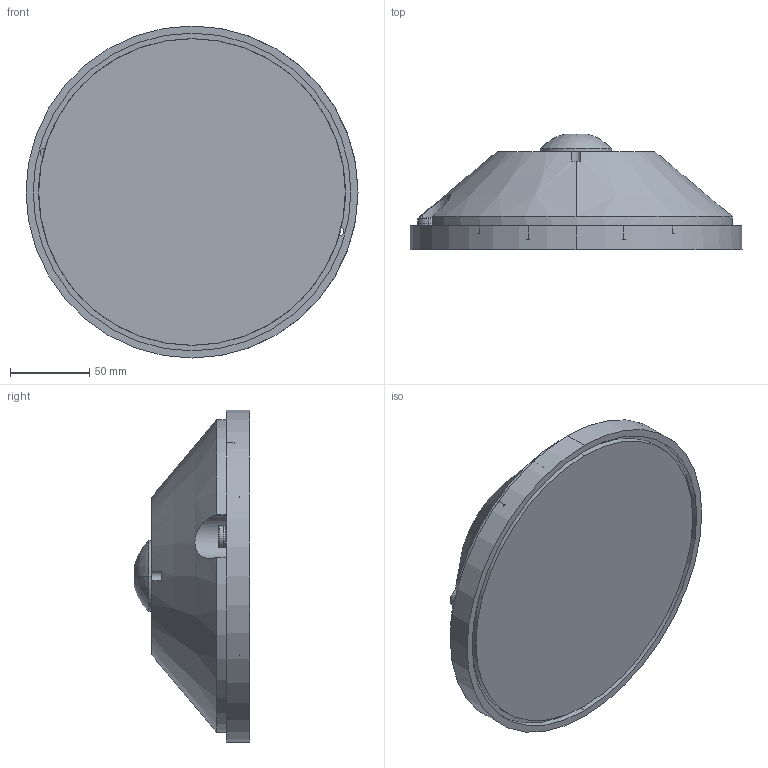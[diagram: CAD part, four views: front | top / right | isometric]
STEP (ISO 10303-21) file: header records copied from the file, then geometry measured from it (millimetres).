
FILE_DESCRIPTION (( 'STEP AP214' ), '1' );
FILE_NAME ('0019565 EZ-0300-210.STEP', '2022-02-28T13:55:57', ( '' ), ( '' ), 'SwSTEP 2.0', 'SolidWorks 2021', '' );
FILE_SCHEMA (( 'AUTOMOTIVE_DESIGN' ));
Length unit declared in the file: millimetre
Products named in the file (1): 0019565 EZ-0300-210
Bounding box: 210 x 73.17 x 210 mm (x, y, z)
Volume: 1432264.3 mm3; surface area: 103747.1 mm2
Topology: 3 solids, 3 shells, 173 faces, 433 edges, 249 vertices
Faces by surface type: cylinder 76, cone 48, plane 43, torus 4, sphere 2
Entity records: 7037 total; most frequent: CARTESIAN_POINT 1057, DIRECTION 902, ORIENTED_EDGE 786, EDGE_CURVE 393, AXIS2_PLACEMENT_3D 362, VERTEX_POINT 249, EDGE_LOOP 202, CIRCLE 188
